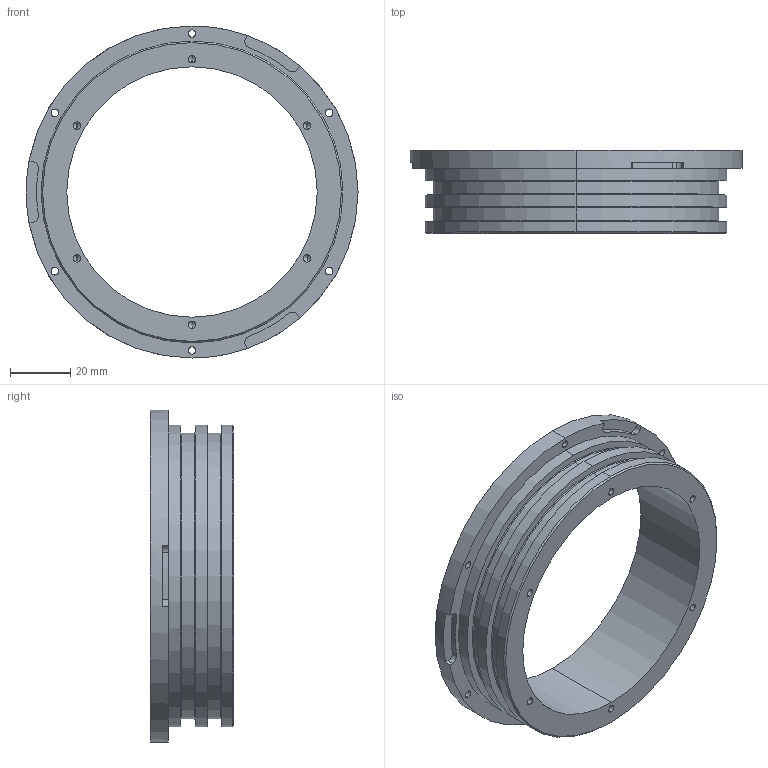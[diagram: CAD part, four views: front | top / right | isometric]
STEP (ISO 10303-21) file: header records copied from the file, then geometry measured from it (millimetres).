
FILE_DESCRIPTION (( 'STEP AP203' ), '1' );
FILE_NAME ('110通用法兰.STEP', '2019-06-03T10:53:14', ( '' ), ( '' ), 'SwSTEP 2.0', 'SolidWorks 2016', '' );
FILE_SCHEMA (( 'CONFIG_CONTROL_DESIGN' ));
Length unit declared in the file: millimetre
Products named in the file (1): 110籵蚚楊擘
Bounding box: 110 x 27.6 x 110 mm (x, y, z)
Volume: 65380 mm3; surface area: 29224.7 mm2
Topology: 1 solids, 1 shells, 96 faces, 235 edges, 142 vertices
Faces by surface type: cylinder 52, plane 18, cone 14, torus 12
Entity records: 2888 total; most frequent: DIRECTION 553, CARTESIAN_POINT 462, ORIENTED_EDGE 446, AXIS2_PLACEMENT_3D 233, EDGE_CURVE 223, VERTEX_POINT 142, CIRCLE 136, EDGE_LOOP 123
